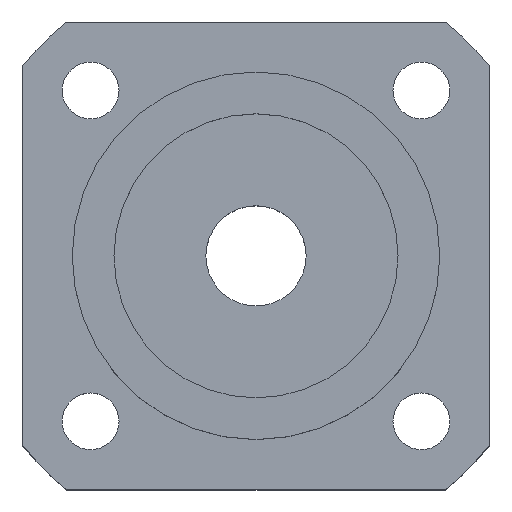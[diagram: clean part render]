
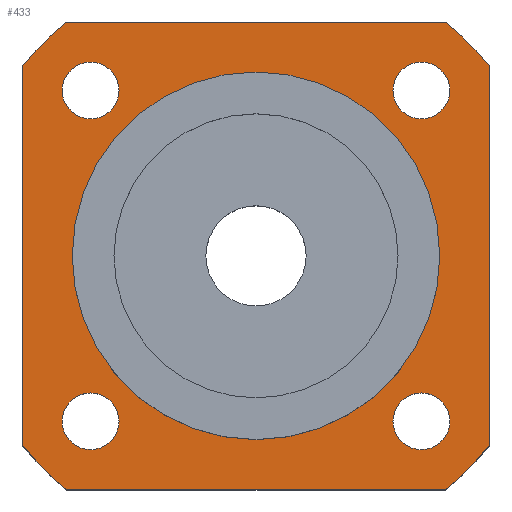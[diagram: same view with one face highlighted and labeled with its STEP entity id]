
A CAD part, top view. The second image highlights one B-rep face of the part: STEP entity #433.
In plain terms, the highlighted planar face has unit normal (0, 0, 1).
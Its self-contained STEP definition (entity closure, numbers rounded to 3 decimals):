
#16=LINE($,#720,#32);
#20=LINE($,#732,#36);
#24=LINE($,#744,#40);
#28=LINE($,#754,#44);
#32=VECTOR($,#598,22.627);
#36=VECTOR($,#610,22.627);
#40=VECTOR($,#622,22.627);
#44=VECTOR($,#634,22.627);
#56=PLANE($,#497);
#80=FACE_BOUND($,#162,.T.);
#81=FACE_BOUND($,#163,.T.);
#82=FACE_BOUND($,#164,.T.);
#83=FACE_BOUND($,#165,.T.);
#84=FACE_BOUND($,#166,.T.);
#85=FACE_BOUND($,#167,.T.);
#162=EDGE_LOOP($,(#364));
#163=EDGE_LOOP($,(#365));
#164=EDGE_LOOP($,(#366));
#165=EDGE_LOOP($,(#367));
#166=EDGE_LOOP($,(#368));
#167=EDGE_LOOP($,(#369,#370,#371,#372,#373,#374,#375,#376));
#183=CIRCLE($,#455,1.7);
#187=CIRCLE($,#462,1.7);
#191=CIRCLE($,#469,1.7);
#195=CIRCLE($,#476,1.7);
#197=CIRCLE($,#479,11.);
#199=CIRCLE($,#483,18.);
#201=CIRCLE($,#487,18.);
#203=CIRCLE($,#491,18.);
#205=CIRCLE($,#495,18.);
#215=VERTEX_POINT($,#666);
#219=VERTEX_POINT($,#677);
#223=VERTEX_POINT($,#688);
#227=VERTEX_POINT($,#699);
#229=VERTEX_POINT($,#704);
#232=VERTEX_POINT($,#711);
#233=VERTEX_POINT($,#713);
#235=VERTEX_POINT($,#719);
#237=VERTEX_POINT($,#725);
#239=VERTEX_POINT($,#731);
#241=VERTEX_POINT($,#737);
#243=VERTEX_POINT($,#743);
#245=VERTEX_POINT($,#749);
#255=EDGE_CURVE($,#215,#215,#183,.T.);
#259=EDGE_CURVE($,#219,#219,#187,.T.);
#263=EDGE_CURVE($,#223,#223,#191,.T.);
#267=EDGE_CURVE($,#227,#227,#195,.T.);
#269=EDGE_CURVE($,#229,#229,#197,.T.);
#272=EDGE_CURVE($,#233,#232,#199,.T.);
#275=EDGE_CURVE($,#235,#233,#16,.T.);
#278=EDGE_CURVE($,#237,#235,#201,.T.);
#281=EDGE_CURVE($,#239,#237,#20,.T.);
#284=EDGE_CURVE($,#241,#239,#203,.T.);
#287=EDGE_CURVE($,#243,#241,#24,.T.);
#290=EDGE_CURVE($,#245,#243,#205,.T.);
#293=EDGE_CURVE($,#232,#245,#28,.T.);
#364=ORIENTED_EDGE($,*,*,#255,.T.);
#365=ORIENTED_EDGE($,*,*,#259,.T.);
#366=ORIENTED_EDGE($,*,*,#263,.T.);
#367=ORIENTED_EDGE($,*,*,#267,.T.);
#368=ORIENTED_EDGE($,*,*,#269,.T.);
#369=ORIENTED_EDGE($,*,*,#293,.T.);
#370=ORIENTED_EDGE($,*,*,#290,.T.);
#371=ORIENTED_EDGE($,*,*,#287,.T.);
#372=ORIENTED_EDGE($,*,*,#284,.T.);
#373=ORIENTED_EDGE($,*,*,#281,.T.);
#374=ORIENTED_EDGE($,*,*,#278,.T.);
#375=ORIENTED_EDGE($,*,*,#275,.T.);
#376=ORIENTED_EDGE($,*,*,#272,.T.);
#433=ADVANCED_FACE($,(#80,#81,#82,#83,#84,#85),#56,.T.);
#455=AXIS2_PLACEMENT_3D($,#667,#535,#536);
#462=AXIS2_PLACEMENT_3D($,#678,#549,#550);
#469=AXIS2_PLACEMENT_3D($,#689,#563,#564);
#476=AXIS2_PLACEMENT_3D($,#700,#577,#578);
#479=AXIS2_PLACEMENT_3D($,#705,#583,#584);
#483=AXIS2_PLACEMENT_3D($,#714,#592,#593);
#487=AXIS2_PLACEMENT_3D($,#726,#604,#605);
#491=AXIS2_PLACEMENT_3D($,#738,#616,#617);
#495=AXIS2_PLACEMENT_3D($,#750,#628,#629);
#497=AXIS2_PLACEMENT_3D($,#755,#635,#636);
#535=DIRECTION('center_axis',(0.,0.,-1.));
#536=DIRECTION('ref_axis',(-1.,0.,0.));
#549=DIRECTION('center_axis',(0.,0.,-1.));
#550=DIRECTION('ref_axis',(-1.,0.,0.));
#563=DIRECTION('center_axis',(0.,0.,-1.));
#564=DIRECTION('ref_axis',(-1.,0.,0.));
#577=DIRECTION('center_axis',(0.,0.,-1.));
#578=DIRECTION('ref_axis',(-1.,0.,0.));
#583=DIRECTION('center_axis',(0.,0.,-1.));
#584=DIRECTION('ref_axis',(-1.,0.,0.));
#592=DIRECTION('center_axis',(0.,0.,1.));
#593=DIRECTION('ref_axis',(-0.629,0.778,0.));
#598=DIRECTION($,(-1.,0.,0.));
#604=DIRECTION('center_axis',(0.,0.,1.));
#605=DIRECTION('ref_axis',(0.778,0.629,0.));
#610=DIRECTION($,(0.,1.,0.));
#616=DIRECTION('center_axis',(0.,0.,1.));
#617=DIRECTION('ref_axis',(0.629,-0.778,0.));
#622=DIRECTION($,(1.,0.,0.));
#628=DIRECTION('center_axis',(0.,0.,1.));
#629=DIRECTION('ref_axis',(-0.778,-0.629,0.));
#634=DIRECTION($,(0.,-1.,0.));
#635=DIRECTION('center_axis',(0.,0.,1.));
#636=DIRECTION('ref_axis',(1.,0.,0.));
#666=CARTESIAN_POINT('',(-8.199,-9.899,6.));
#667=CARTESIAN_POINT('Origin',(-9.899,-9.899,6.));
#677=CARTESIAN_POINT('',(11.599,9.899,6.));
#678=CARTESIAN_POINT('Origin',(9.899,9.899,6.));
#688=CARTESIAN_POINT('',(11.599,-9.899,6.));
#689=CARTESIAN_POINT('Origin',(9.899,-9.899,6.));
#699=CARTESIAN_POINT('',(-8.199,9.899,6.));
#700=CARTESIAN_POINT('Origin',(-9.899,9.899,6.));
#704=CARTESIAN_POINT('',(11.,0.,6.));
#705=CARTESIAN_POINT('Origin',(0.,0.,6.));
#711=CARTESIAN_POINT('',(-14.,11.314,6.));
#713=CARTESIAN_POINT('',(-11.314,14.,6.));
#714=CARTESIAN_POINT('Origin',(0.,0.,6.));
#719=CARTESIAN_POINT('',(11.314,14.,6.));
#720=CARTESIAN_POINT($,(11.314,14.,6.));
#725=CARTESIAN_POINT('',(14.,11.314,6.));
#726=CARTESIAN_POINT('Origin',(0.,0.,6.));
#731=CARTESIAN_POINT('',(14.,-11.314,6.));
#732=CARTESIAN_POINT($,(14.,-11.314,6.));
#737=CARTESIAN_POINT('',(11.314,-14.,6.));
#738=CARTESIAN_POINT('Origin',(0.,0.,6.));
#743=CARTESIAN_POINT('',(-11.314,-14.,6.));
#744=CARTESIAN_POINT($,(-11.314,-14.,6.));
#749=CARTESIAN_POINT('',(-14.,-11.314,6.));
#750=CARTESIAN_POINT('Origin',(0.,0.,6.));
#754=CARTESIAN_POINT($,(-14.,11.314,6.));
#755=CARTESIAN_POINT('Origin',(0.,0.,
6.));
